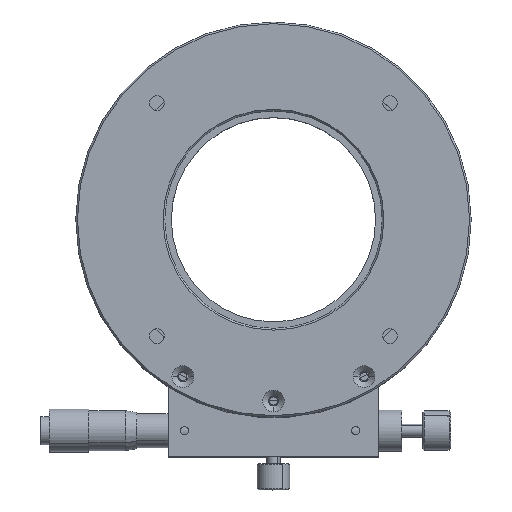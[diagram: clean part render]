
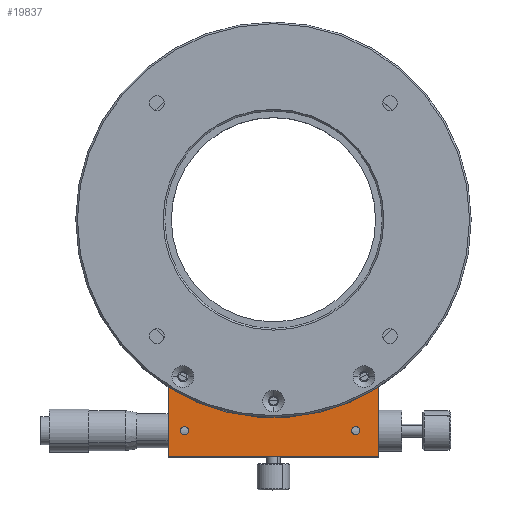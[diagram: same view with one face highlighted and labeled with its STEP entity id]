
A CAD part, top view. The second image highlights one B-rep face of the part: STEP entity #19837.
In plain terms, the highlighted planar face has unit normal (0, 0, 1).
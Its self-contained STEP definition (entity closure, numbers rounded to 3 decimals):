
#1182 = VECTOR ( 'NONE', #22632, 1000. ) ;
#1772 = ORIENTED_EDGE ( 'NONE', *, *, #7511, .T. ) ;
#1815 = DIRECTION ( 'NONE',  ( 0., 0., -1. ) ) ;
#1935 = CIRCLE ( 'NONE', #7931, 1.25 ) ;
#2069 = EDGE_CURVE ( 'NONE', #10095, #12234, #2732, .T. ) ;
#2262 = EDGE_CURVE ( 'NONE', #3956, #7960, #11925, .T. ) ;
#2732 = LINE ( 'NONE', #16457, #21707 ) ;
#2880 = DIRECTION ( 'NONE',  ( -1., 0., 0. ) ) ;
#3063 = DIRECTION ( 'NONE',  ( -1., 0., 0. ) ) ;
#3633 = DIRECTION ( 'NONE',  ( -1., 0., 0. ) ) ;
#3841 = EDGE_LOOP ( 'NONE', ( #1772, #21059 ) ) ;
#3956 = VERTEX_POINT ( 'NONE', #18902 ) ;
#4619 = VERTEX_POINT ( 'NONE', #18208 ) ;
#4741 = PLANE ( 'NONE',  #17535 ) ;
#4813 = CARTESIAN_POINT ( 'NONE',  ( 20.547, -3.062, 95.661 ) ) ;
#5284 = CARTESIAN_POINT ( 'NONE',  ( 19.297, -3.062, 95.661 ) ) ;
#5584 = ORIENTED_EDGE ( 'NONE', *, *, #22760, .T. ) ;
#6308 = FACE_OUTER_BOUND ( 'NONE', #24525, .T. ) ;
#6354 = CIRCLE ( 'NONE', #16793, 1.25 ) ;
#7277 = DIRECTION ( 'NONE',  ( 0., 0., -1. ) ) ;
#7398 = EDGE_CURVE ( 'NONE', #7960, #10095, #7862, .T. ) ;
#7431 = CARTESIAN_POINT ( 'NONE',  ( -1.236, -11.062, 95.661 ) ) ;
#7511 = EDGE_CURVE ( 'NONE', #4619, #21185, #22387, .T. ) ;
#7862 = CIRCLE ( 'NONE', #16564, 60.1 ) ;
#7931 = AXIS2_PLACEMENT_3D ( 'NONE', #21451, #10191, #2880 ) ;
#7960 = VERTEX_POINT ( 'NONE', #11527 ) ;
#8109 = CARTESIAN_POINT ( 'NONE',  ( 14.297, -11.062, 95.661 ) ) ;
#8339 = CARTESIAN_POINT ( 'NONE',  ( 72.547, -3.062, 95.661 ) ) ;
#9219 = CARTESIAN_POINT ( 'NONE',  ( 71.297, -3.062, 95.661 ) ) ;
#9314 = EDGE_LOOP ( 'NONE', ( #16357, #5584 ) ) ;
#9326 = DIRECTION ( 'NONE',  ( 1., 0., 0. ) ) ;
#10095 = VERTEX_POINT ( 'NONE', #20600 ) ;
#10191 = DIRECTION ( 'NONE',  ( 0., 0., -1. ) ) ;
#10255 = ORIENTED_EDGE ( 'NONE', *, *, #2069, .T. ) ;
#11527 = CARTESIAN_POINT ( 'NONE',  ( 78.297, 10.066, 95.661 ) ) ;
#11925 = LINE ( 'NONE', #14432, #1182 ) ;
#12234 = VERTEX_POINT ( 'NONE', #8109 ) ;
#13061 = LINE ( 'NONE', #7431, #16321 ) ;
#13380 = CARTESIAN_POINT ( 'NONE',  ( 46.297, 60.938, 95.661 ) ) ;
#14057 = FACE_BOUND ( 'NONE', #9314, .T. ) ;
#14336 = AXIS2_PLACEMENT_3D ( 'NONE', #18979, #15411, #19139 ) ;
#14432 = CARTESIAN_POINT ( 'NONE',  ( 78.297, 7.354, 95.661 ) ) ;
#15411 = DIRECTION ( 'NONE',  ( 0., 0., -1. ) ) ;
#16321 = VECTOR ( 'NONE', #9326, 1000. ) ;
#16357 = ORIENTED_EDGE ( 'NONE', *, *, #20889, .T. ) ;
#16385 = DIRECTION ( 'NONE',  ( 0., 0., 1. ) ) ;
#16457 = CARTESIAN_POINT ( 'NONE',  ( 14.297, 7.354, 95.661 ) ) ;
#16564 = AXIS2_PLACEMENT_3D ( 'NONE', #13380, #24627, #21043 ) ;
#16581 = EDGE_CURVE ( 'NONE', #21185, #4619, #18789, .T. ) ;
#16793 = AXIS2_PLACEMENT_3D ( 'NONE', #9219, #1815, #22489 ) ;
#17420 = CARTESIAN_POINT ( 'NONE',  ( 70.047, -3.062, 95.661 ) ) ;
#17535 = AXIS2_PLACEMENT_3D ( 'NONE', #18104, #16385, #3063 ) ;
#18007 = VERTEX_POINT ( 'NONE', #17420 ) ;
#18104 = CARTESIAN_POINT ( 'NONE',  ( -1.236, 7.354, 95.661 ) ) ;
#18208 = CARTESIAN_POINT ( 'NONE',  ( 18.047, -3.062, 95.661 ) ) ;
#18789 = CIRCLE ( 'NONE', #21010, 1.25 ) ;
#18902 = CARTESIAN_POINT ( 'NONE',  ( 78.297, -11.062, 95.661 ) ) ;
#18979 = CARTESIAN_POINT ( 'NONE',  ( 19.297, -3.062, 95.661 ) ) ;
#19139 = DIRECTION ( 'NONE',  ( -1., 0., 0. ) ) ;
#19253 = VERTEX_POINT ( 'NONE', #8339 ) ;
#19837 = ADVANCED_FACE ( 'NONE', ( #14057, #22326, #6308 ), #4741, .T. ) ;
#20133 = ORIENTED_EDGE ( 'NONE', *, *, #2262, .T. ) ;
#20600 = CARTESIAN_POINT ( 'NONE',  ( 14.297, 10.066, 95.661 ) ) ;
#20889 = EDGE_CURVE ( 'NONE', #18007, #19253, #6354, .T. ) ;
#21010 = AXIS2_PLACEMENT_3D ( 'NONE', #5284, #7277, #3633 ) ;
#21043 = DIRECTION ( 'NONE',  ( -1., 0., 0. ) ) ;
#21059 = ORIENTED_EDGE ( 'NONE', *, *, #16581, .T. ) ;
#21127 = ORIENTED_EDGE ( 'NONE', *, *, #24077, .T. ) ;
#21185 = VERTEX_POINT ( 'NONE', #4813 ) ;
#21451 = CARTESIAN_POINT ( 'NONE',  ( 71.297, -3.062, 95.661 ) ) ;
#21707 = VECTOR ( 'NONE', #23971, 1000. ) ;
#22311 = ORIENTED_EDGE ( 'NONE', *, *, #7398, .T. ) ;
#22326 = FACE_BOUND ( 'NONE', #3841, .T. ) ;
#22387 = CIRCLE ( 'NONE', #14336, 1.25 ) ;
#22489 = DIRECTION ( 'NONE',  ( -1., 0., 0. ) ) ;
#22632 = DIRECTION ( 'NONE',  ( 0., 1., 0. ) ) ;
#22760 = EDGE_CURVE ( 'NONE', #19253, #18007, #1935, .T. ) ;
#23971 = DIRECTION ( 'NONE',  ( 0., -1., 0. ) ) ;
#24077 = EDGE_CURVE ( 'NONE', #12234, #3956, #13061, .T. ) ;
#24525 = EDGE_LOOP ( 'NONE', ( #22311, #10255, #21127, #20133 ) ) ;
#24627 = DIRECTION ( 'NONE',  ( 0., 0., -1. ) ) ;
